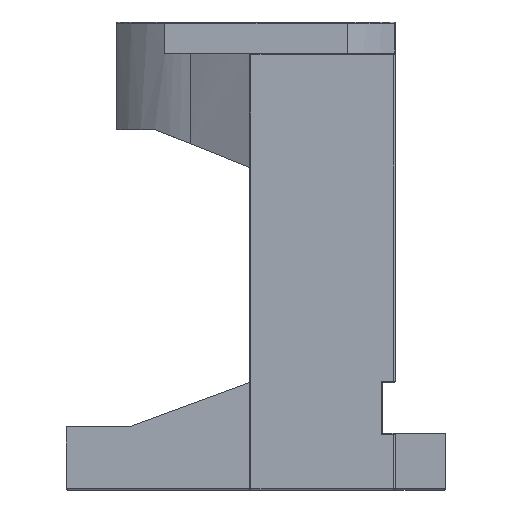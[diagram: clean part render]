
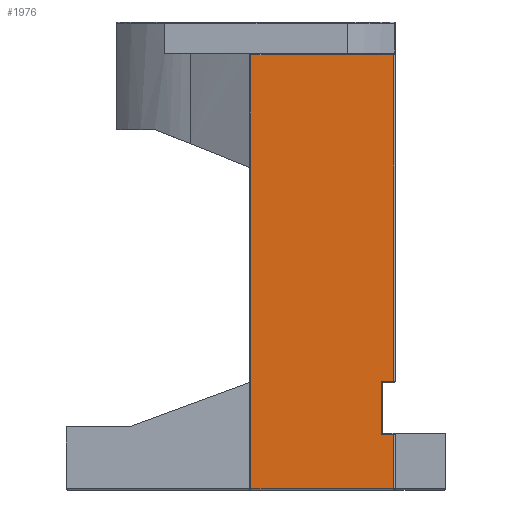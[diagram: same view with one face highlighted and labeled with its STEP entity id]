
A CAD part, left-side view. The second image highlights one B-rep face of the part: STEP entity #1976.
In plain terms, the highlighted planar face has unit normal (-1, 0, 0).
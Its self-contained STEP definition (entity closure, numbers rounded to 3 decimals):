
#69 = FACE_OUTER_BOUND ( 'NONE', #4392, .T. ) ;
#157 = CARTESIAN_POINT ( 'NONE',  ( -32.5, 0.8, 63.8 ) ) ;
#161 = CARTESIAN_POINT ( 'NONE',  ( -32.5, -19.8, 12.2 ) ) ;
#338 = CARTESIAN_POINT ( 'NONE',  ( -32.5, -22., 64. ) ) ;
#500 = VERTEX_POINT ( 'NONE', #1238 ) ;
#611 = VECTOR ( 'NONE', #3199, 1000. ) ;
#904 = DIRECTION ( 'NONE',  ( 0., 0., 1. ) ) ;
#996 = LINE ( 'NONE', #1382, #5345 ) ;
#1033 = VECTOR ( 'NONE', #5494, 1000. ) ;
#1116 = LINE ( 'NONE', #2455, #5595 ) ;
#1118 = EDGE_CURVE ( 'NONE', #2763, #5054, #2266, .T. ) ;
#1156 = EDGE_CURVE ( 'NONE', #500, #4321, #996, .T. ) ;
#1160 = VECTOR ( 'NONE', #3960, 1000. ) ;
#1238 = CARTESIAN_POINT ( 'NONE',  ( -32.5, -21.8, 63.8 ) ) ;
#1248 = DIRECTION ( 'NONE',  ( 0., 0., 1. ) ) ;
#1308 = LINE ( 'NONE', #3530, #1160 ) ;
#1352 = CARTESIAN_POINT ( 'NONE',  ( -32.5, -19.8, 12. ) ) ;
#1356 = VERTEX_POINT ( 'NONE', #4322 ) ;
#1382 = CARTESIAN_POINT ( 'NONE',  ( -32.5, -22., 63.8 ) ) ;
#1473 = EDGE_CURVE ( 'NONE', #2980, #5239, #1822, .T. ) ;
#1628 = DIRECTION ( 'NONE',  ( 0., 0., -1. ) ) ;
#1631 = CARTESIAN_POINT ( 'NONE',  ( -32.5, 0.8, -4.8 ) ) ;
#1653 = ORIENTED_EDGE ( 'NONE', *, *, #4463, .T. ) ;
#1772 = CARTESIAN_POINT ( 'NONE',  ( -32.5, -19.8, 3.8 ) ) ;
#1822 = LINE ( 'NONE', #3352, #611 ) ;
#1891 = VECTOR ( 'NONE', #2566, 1000. ) ;
#1892 = EDGE_CURVE ( 'NONE', #5054, #1356, #4106, .T. ) ;
#1965 = VERTEX_POINT ( 'NONE', #3340 ) ;
#1976 = ADVANCED_FACE ( 'NONE', ( #69 ), #5485, .T. ) ;
#2266 = LINE ( 'NONE', #1352, #4491 ) ;
#2455 = CARTESIAN_POINT ( 'NONE',  ( -32.5, 0.8, -5. ) ) ;
#2510 = ORIENTED_EDGE ( 'NONE', *, *, #1473, .T. ) ;
#2566 = DIRECTION ( 'NONE',  ( 0., -1., 0. ) ) ;
#2763 = VERTEX_POINT ( 'NONE', #1772 ) ;
#2794 = CARTESIAN_POINT ( 'NONE',  ( -32.5, -22., 12.2 ) ) ;
#2904 = ORIENTED_EDGE ( 'NONE', *, *, #4715, .T. ) ;
#2911 = ORIENTED_EDGE ( 'NONE', *, *, #1892, .T. ) ;
#2980 = VERTEX_POINT ( 'NONE', #1631 ) ;
#3199 = DIRECTION ( 'NONE',  ( 0., -1., 0. ) ) ;
#3229 = ORIENTED_EDGE ( 'NONE', *, *, #1156, .T. ) ;
#3340 = CARTESIAN_POINT ( 'NONE',  ( -32.5, -21.8, 3.8 ) ) ;
#3352 = CARTESIAN_POINT ( 'NONE',  ( -32.5, -22., -4.8 ) ) ;
#3530 = CARTESIAN_POINT ( 'NONE',  ( -32.5, -21.8, 64. ) ) ;
#3555 = LINE ( 'NONE', #5062, #1033 ) ;
#3607 = EDGE_CURVE ( 'NONE', #4321, #2980, #1116, .T. ) ;
#3687 = CARTESIAN_POINT ( 'NONE',  ( -32.5, -21.8, -4.8 ) ) ;
#3782 = CARTESIAN_POINT ( 'NONE',  ( -32.5, -21.8, 4. ) ) ;
#3896 = ORIENTED_EDGE ( 'NONE', *, *, #1118, .T. ) ;
#3960 = DIRECTION ( 'NONE',  ( 0., 0., 1. ) ) ;
#4106 = LINE ( 'NONE', #2794, #1891 ) ;
#4302 = DIRECTION ( 'NONE',  ( 0., 1., 0. ) ) ;
#4321 = VERTEX_POINT ( 'NONE', #157 ) ;
#4322 = CARTESIAN_POINT ( 'NONE',  ( -32.5, -21.8, 12.2 ) ) ;
#4392 = EDGE_LOOP ( 'NONE', ( #5448, #3229, #5583, #2510, #1653, #2904, #3896, #2911 ) ) ;
#4458 = LINE ( 'NONE', #3782, #5584 ) ;
#4463 = EDGE_CURVE ( 'NONE', #5239, #1965, #4458, .T. ) ;
#4491 = VECTOR ( 'NONE', #904, 1000. ) ;
#4715 = EDGE_CURVE ( 'NONE', #1965, #2763, #3555, .T. ) ;
#5054 = VERTEX_POINT ( 'NONE', #161 ) ;
#5062 = CARTESIAN_POINT ( 'NONE',  ( -32.5, -20., 3.8 ) ) ;
#5239 = VERTEX_POINT ( 'NONE', #3687 ) ;
#5345 = VECTOR ( 'NONE', #4302, 1000. ) ;
#5417 = AXIS2_PLACEMENT_3D ( 'NONE', #338, #5469, #5450 ) ;
#5448 = ORIENTED_EDGE ( 'NONE', *, *, #5601, .T. ) ;
#5450 = DIRECTION ( 'NONE',  ( 0., 1., 0. ) ) ;
#5469 = DIRECTION ( 'NONE',  ( -1., 0., 0. ) ) ;
#5485 = PLANE ( 'NONE',  #5417 ) ;
#5494 = DIRECTION ( 'NONE',  ( 0., 1., 0. ) ) ;
#5583 = ORIENTED_EDGE ( 'NONE', *, *, #3607, .T. ) ;
#5584 = VECTOR ( 'NONE', #1248, 1000. ) ;
#5595 = VECTOR ( 'NONE', #1628, 1000. ) ;
#5601 = EDGE_CURVE ( 'NONE', #1356, #500, #1308, .T. ) ;
